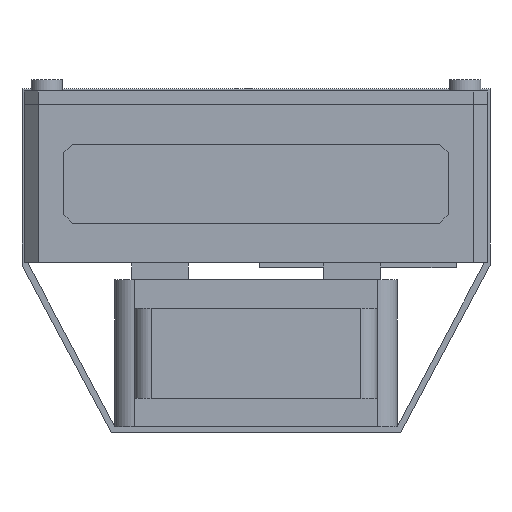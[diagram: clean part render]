
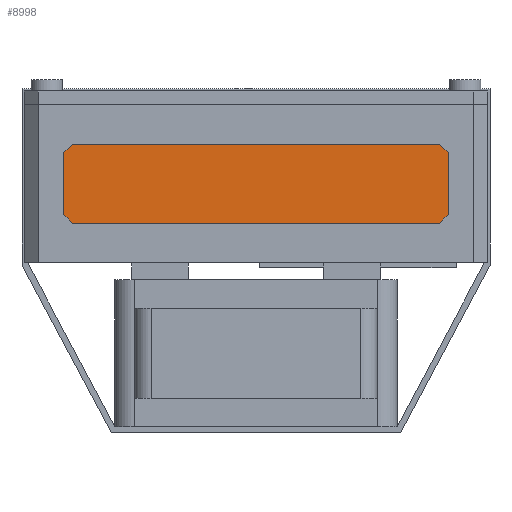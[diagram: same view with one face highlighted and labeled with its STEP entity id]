
A CAD part, front view. The second image highlights one B-rep face of the part: STEP entity #8998.
In plain terms, the highlighted planar face has unit normal (0, -1, 0).
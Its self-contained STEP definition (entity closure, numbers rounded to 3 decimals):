
#655 = PLANE('',#656);
#656 = AXIS2_PLACEMENT_3D('',#657,#658,#659);
#657 = CARTESIAN_POINT('',(-34.,-54.65,8.5));
#658 = DIRECTION('',(0.707,0.,0.707));
#659 = DIRECTION('',(0.707,0.,-0.707)
  );
#681 = PLANE('',#682);
#682 = AXIS2_PLACEMENT_3D('',#683,#684,#685);
#683 = CARTESIAN_POINT('',(-32.5,-54.65,7.));
#684 = DIRECTION('',(0.,0.,1.));
#685 = DIRECTION('',(1.,0.,0.));
#707 = PLANE('',#708);
#708 = AXIS2_PLACEMENT_3D('',#709,#710,#711);
#709 = CARTESIAN_POINT('',(32.5,-54.65,7.));
#710 = DIRECTION('',(-0.707,0.,0.707)
  );
#711 = DIRECTION('',(0.707,0.,0.707));
#733 = PLANE('',#734);
#734 = AXIS2_PLACEMENT_3D('',#735,#736,#737);
#735 = CARTESIAN_POINT('',(34.,-54.65,8.5));
#736 = DIRECTION('',(-1.,0.,0.));
#737 = DIRECTION('',(0.,0.,1.));
#759 = PLANE('',#760);
#760 = AXIS2_PLACEMENT_3D('',#761,#762,#763);
#761 = CARTESIAN_POINT('',(34.,-54.65,19.5));
#762 = DIRECTION('',(-0.707,0.,-0.707
    ));
#763 = DIRECTION('',(-0.707,0.,0.707)
  );
#785 = PLANE('',#786);
#786 = AXIS2_PLACEMENT_3D('',#787,#788,#789);
#787 = CARTESIAN_POINT('',(32.5,-54.65,21.));
#788 = DIRECTION('',(0.,0.,-1.));
#789 = DIRECTION('',(-1.,0.,0.));
#811 = PLANE('',#812);
#812 = AXIS2_PLACEMENT_3D('',#813,#814,#815);
#813 = CARTESIAN_POINT('',(-32.5,-54.65,21.));
#814 = DIRECTION('',(0.707,0.,-0.707)
  );
#815 = DIRECTION('',(-0.707,0.,-0.707
    ));
#835 = PLANE('',#836);
#836 = AXIS2_PLACEMENT_3D('',#837,#838,#839);
#837 = CARTESIAN_POINT('',(-34.,-54.65,19.5));
#838 = DIRECTION('',(1.,0.,0.));
#839 = DIRECTION('',(0.,0.,-1.));
#3086 = EDGE_CURVE('',#3087,#3089,#3091,.T.);
#3087 = VERTEX_POINT('',#3088);
#3088 = CARTESIAN_POINT('',(-34.,-54.65,8.5));
#3089 = VERTEX_POINT('',#3090);
#3090 = CARTESIAN_POINT('',(-32.5,-54.65,7.));
#3091 = SURFACE_CURVE('',#3092,(#3096,#3103),.PCURVE_S1.);
#3092 = LINE('',#3093,#3094);
#3093 = CARTESIAN_POINT('',(-34.,-54.65,8.5));
#3094 = VECTOR('',#3095,1.);
#3095 = DIRECTION('',(0.707,0.,-0.707
    ));
#3096 = PCURVE('',#655,#3097);
#3097 = DEFINITIONAL_REPRESENTATION('',(#3098),#3102);
#3098 = LINE('',#3099,#3100);
#3099 = CARTESIAN_POINT('',(0.,0.));
#3100 = VECTOR('',#3101,1.);
#3101 = DIRECTION('',(1.,0.));
#3102 = ( GEOMETRIC_REPRESENTATION_CONTEXT(2) 
PARAMETRIC_REPRESENTATION_CONTEXT() REPRESENTATION_CONTEXT('2D SPACE',''
  ) );
#3103 = PCURVE('',#3104,#3109);
#3104 = PLANE('',#3105);
#3105 = AXIS2_PLACEMENT_3D('',#3106,#3107,#3108);
#3106 = CARTESIAN_POINT('',(0.,-54.65,14.));
#3107 = DIRECTION('',(0.,-1.,0.));
#3108 = DIRECTION('',(1.,0.,0.));
#3109 = DEFINITIONAL_REPRESENTATION('',(#3110),#3114);
#3110 = LINE('',#3111,#3112);
#3111 = CARTESIAN_POINT('',(-34.,-5.5));
#3112 = VECTOR('',#3113,1.);
#3113 = DIRECTION('',(0.707,-0.707));
#3114 = ( GEOMETRIC_REPRESENTATION_CONTEXT(2) 
PARAMETRIC_REPRESENTATION_CONTEXT() REPRESENTATION_CONTEXT('2D SPACE',''
  ) );
#3162 = EDGE_CURVE('',#3163,#3087,#3165,.T.);
#3163 = VERTEX_POINT('',#3164);
#3164 = CARTESIAN_POINT('',(-34.,-54.65,19.5));
#3165 = SURFACE_CURVE('',#3166,(#3170,#3177),.PCURVE_S1.);
#3166 = LINE('',#3167,#3168);
#3167 = CARTESIAN_POINT('',(-34.,-54.65,19.5));
#3168 = VECTOR('',#3169,1.);
#3169 = DIRECTION('',(0.,0.,-1.));
#3170 = PCURVE('',#835,#3171);
#3171 = DEFINITIONAL_REPRESENTATION('',(#3172),#3176);
#3172 = LINE('',#3173,#3174);
#3173 = CARTESIAN_POINT('',(0.,0.));
#3174 = VECTOR('',#3175,1.);
#3175 = DIRECTION('',(1.,0.));
#3176 = ( GEOMETRIC_REPRESENTATION_CONTEXT(2) 
PARAMETRIC_REPRESENTATION_CONTEXT() REPRESENTATION_CONTEXT('2D SPACE',''
  ) );
#3177 = PCURVE('',#3104,#3178);
#3178 = DEFINITIONAL_REPRESENTATION('',(#3179),#3183);
#3179 = LINE('',#3180,#3181);
#3180 = CARTESIAN_POINT('',(-34.,5.5));
#3181 = VECTOR('',#3182,1.);
#3182 = DIRECTION('',(0.,-1.));
#3183 = ( GEOMETRIC_REPRESENTATION_CONTEXT(2) 
PARAMETRIC_REPRESENTATION_CONTEXT() REPRESENTATION_CONTEXT('2D SPACE',''
  ) );
#3211 = EDGE_CURVE('',#3212,#3163,#3214,.T.);
#3212 = VERTEX_POINT('',#3213);
#3213 = CARTESIAN_POINT('',(-32.5,-54.65,21.));
#3214 = SURFACE_CURVE('',#3215,(#3219,#3226),.PCURVE_S1.);
#3215 = LINE('',#3216,#3217);
#3216 = CARTESIAN_POINT('',(-32.5,-54.65,21.));
#3217 = VECTOR('',#3218,1.);
#3218 = DIRECTION('',(-0.707,0.,
    -0.707));
#3219 = PCURVE('',#811,#3220);
#3220 = DEFINITIONAL_REPRESENTATION('',(#3221),#3225);
#3221 = LINE('',#3222,#3223);
#3222 = CARTESIAN_POINT('',(0.,0.));
#3223 = VECTOR('',#3224,1.);
#3224 = DIRECTION('',(1.,0.));
#3225 = ( GEOMETRIC_REPRESENTATION_CONTEXT(2) 
PARAMETRIC_REPRESENTATION_CONTEXT() REPRESENTATION_CONTEXT('2D SPACE',''
  ) );
#3226 = PCURVE('',#3104,#3227);
#3227 = DEFINITIONAL_REPRESENTATION('',(#3228),#3232);
#3228 = LINE('',#3229,#3230);
#3229 = CARTESIAN_POINT('',(-32.5,7.));
#3230 = VECTOR('',#3231,1.);
#3231 = DIRECTION('',(-0.707,-0.707));
#3232 = ( GEOMETRIC_REPRESENTATION_CONTEXT(2) 
PARAMETRIC_REPRESENTATION_CONTEXT() REPRESENTATION_CONTEXT('2D SPACE',''
  ) );
#3260 = EDGE_CURVE('',#3261,#3212,#3263,.T.);
#3261 = VERTEX_POINT('',#3262);
#3262 = CARTESIAN_POINT('',(32.5,-54.65,21.));
#3263 = SURFACE_CURVE('',#3264,(#3268,#3275),.PCURVE_S1.);
#3264 = LINE('',#3265,#3266);
#3265 = CARTESIAN_POINT('',(32.5,-54.65,21.));
#3266 = VECTOR('',#3267,1.);
#3267 = DIRECTION('',(-1.,0.,0.));
#3268 = PCURVE('',#785,#3269);
#3269 = DEFINITIONAL_REPRESENTATION('',(#3270),#3274);
#3270 = LINE('',#3271,#3272);
#3271 = CARTESIAN_POINT('',(0.,-0.));
#3272 = VECTOR('',#3273,1.);
#3273 = DIRECTION('',(1.,0.));
#3274 = ( GEOMETRIC_REPRESENTATION_CONTEXT(2) 
PARAMETRIC_REPRESENTATION_CONTEXT() REPRESENTATION_CONTEXT('2D SPACE',''
  ) );
#3275 = PCURVE('',#3104,#3276);
#3276 = DEFINITIONAL_REPRESENTATION('',(#3277),#3281);
#3277 = LINE('',#3278,#3279);
#3278 = CARTESIAN_POINT('',(32.5,7.));
#3279 = VECTOR('',#3280,1.);
#3280 = DIRECTION('',(-1.,0.));
#3281 = ( GEOMETRIC_REPRESENTATION_CONTEXT(2) 
PARAMETRIC_REPRESENTATION_CONTEXT() REPRESENTATION_CONTEXT('2D SPACE',''
  ) );
#3309 = EDGE_CURVE('',#3310,#3261,#3312,.T.);
#3310 = VERTEX_POINT('',#3311);
#3311 = CARTESIAN_POINT('',(34.,-54.65,19.5));
#3312 = SURFACE_CURVE('',#3313,(#3317,#3324),.PCURVE_S1.);
#3313 = LINE('',#3314,#3315);
#3314 = CARTESIAN_POINT('',(34.,-54.65,19.5));
#3315 = VECTOR('',#3316,1.);
#3316 = DIRECTION('',(-0.707,0.,0.707)
  );
#3317 = PCURVE('',#759,#3318);
#3318 = DEFINITIONAL_REPRESENTATION('',(#3319),#3323);
#3319 = LINE('',#3320,#3321);
#3320 = CARTESIAN_POINT('',(0.,0.));
#3321 = VECTOR('',#3322,1.);
#3322 = DIRECTION('',(1.,0.));
#3323 = ( GEOMETRIC_REPRESENTATION_CONTEXT(2) 
PARAMETRIC_REPRESENTATION_CONTEXT() REPRESENTATION_CONTEXT('2D SPACE',''
  ) );
#3324 = PCURVE('',#3104,#3325);
#3325 = DEFINITIONAL_REPRESENTATION('',(#3326),#3330);
#3326 = LINE('',#3327,#3328);
#3327 = CARTESIAN_POINT('',(34.,5.5));
#3328 = VECTOR('',#3329,1.);
#3329 = DIRECTION('',(-0.707,0.707));
#3330 = ( GEOMETRIC_REPRESENTATION_CONTEXT(2) 
PARAMETRIC_REPRESENTATION_CONTEXT() REPRESENTATION_CONTEXT('2D SPACE',''
  ) );
#3358 = EDGE_CURVE('',#3359,#3310,#3361,.T.);
#3359 = VERTEX_POINT('',#3360);
#3360 = CARTESIAN_POINT('',(34.,-54.65,8.5));
#3361 = SURFACE_CURVE('',#3362,(#3366,#3373),.PCURVE_S1.);
#3362 = LINE('',#3363,#3364);
#3363 = CARTESIAN_POINT('',(34.,-54.65,8.5));
#3364 = VECTOR('',#3365,1.);
#3365 = DIRECTION('',(0.,0.,1.));
#3366 = PCURVE('',#733,#3367);
#3367 = DEFINITIONAL_REPRESENTATION('',(#3368),#3372);
#3368 = LINE('',#3369,#3370);
#3369 = CARTESIAN_POINT('',(0.,0.));
#3370 = VECTOR('',#3371,1.);
#3371 = DIRECTION('',(1.,0.));
#3372 = ( GEOMETRIC_REPRESENTATION_CONTEXT(2) 
PARAMETRIC_REPRESENTATION_CONTEXT() REPRESENTATION_CONTEXT('2D SPACE',''
  ) );
#3373 = PCURVE('',#3104,#3374);
#3374 = DEFINITIONAL_REPRESENTATION('',(#3375),#3379);
#3375 = LINE('',#3376,#3377);
#3376 = CARTESIAN_POINT('',(34.,-5.5));
#3377 = VECTOR('',#3378,1.);
#3378 = DIRECTION('',(0.,1.));
#3379 = ( GEOMETRIC_REPRESENTATION_CONTEXT(2) 
PARAMETRIC_REPRESENTATION_CONTEXT() REPRESENTATION_CONTEXT('2D SPACE',''
  ) );
#3407 = EDGE_CURVE('',#3408,#3359,#3410,.T.);
#3408 = VERTEX_POINT('',#3409);
#3409 = CARTESIAN_POINT('',(32.5,-54.65,7.));
#3410 = SURFACE_CURVE('',#3411,(#3415,#3422),.PCURVE_S1.);
#3411 = LINE('',#3412,#3413);
#3412 = CARTESIAN_POINT('',(32.5,-54.65,7.));
#3413 = VECTOR('',#3414,1.);
#3414 = DIRECTION('',(0.707,0.,0.707)
  );
#3415 = PCURVE('',#707,#3416);
#3416 = DEFINITIONAL_REPRESENTATION('',(#3417),#3421);
#3417 = LINE('',#3418,#3419);
#3418 = CARTESIAN_POINT('',(0.,0.));
#3419 = VECTOR('',#3420,1.);
#3420 = DIRECTION('',(1.,0.));
#3421 = ( GEOMETRIC_REPRESENTATION_CONTEXT(2) 
PARAMETRIC_REPRESENTATION_CONTEXT() REPRESENTATION_CONTEXT('2D SPACE',''
  ) );
#3422 = PCURVE('',#3104,#3423);
#3423 = DEFINITIONAL_REPRESENTATION('',(#3424),#3428);
#3424 = LINE('',#3425,#3426);
#3425 = CARTESIAN_POINT('',(32.5,-7.));
#3426 = VECTOR('',#3427,1.);
#3427 = DIRECTION('',(0.707,0.707));
#3428 = ( GEOMETRIC_REPRESENTATION_CONTEXT(2) 
PARAMETRIC_REPRESENTATION_CONTEXT() REPRESENTATION_CONTEXT('2D SPACE',''
  ) );
#3456 = EDGE_CURVE('',#3089,#3408,#3457,.T.);
#3457 = SURFACE_CURVE('',#3458,(#3462,#3469),.PCURVE_S1.);
#3458 = LINE('',#3459,#3460);
#3459 = CARTESIAN_POINT('',(-32.5,-54.65,7.));
#3460 = VECTOR('',#3461,1.);
#3461 = DIRECTION('',(1.,0.,0.));
#3462 = PCURVE('',#681,#3463);
#3463 = DEFINITIONAL_REPRESENTATION('',(#3464),#3468);
#3464 = LINE('',#3465,#3466);
#3465 = CARTESIAN_POINT('',(0.,0.));
#3466 = VECTOR('',#3467,1.);
#3467 = DIRECTION('',(1.,0.));
#3468 = ( GEOMETRIC_REPRESENTATION_CONTEXT(2) 
PARAMETRIC_REPRESENTATION_CONTEXT() REPRESENTATION_CONTEXT('2D SPACE',''
  ) );
#3469 = PCURVE('',#3104,#3470);
#3470 = DEFINITIONAL_REPRESENTATION('',(#3471),#3475);
#3471 = LINE('',#3472,#3473);
#3472 = CARTESIAN_POINT('',(-32.5,-7.));
#3473 = VECTOR('',#3474,1.);
#3474 = DIRECTION('',(1.,0.));
#3475 = ( GEOMETRIC_REPRESENTATION_CONTEXT(2) 
PARAMETRIC_REPRESENTATION_CONTEXT() REPRESENTATION_CONTEXT('2D SPACE',''
  ) );
#8998 = ADVANCED_FACE('',(#8999),#3104,.T.);
#8999 = FACE_BOUND('',#9000,.T.);
#9000 = EDGE_LOOP('',(#9001,#9002,#9003,#9004,#9005,#9006,#9007,#9008));
#9001 = ORIENTED_EDGE('',*,*,#3456,.T.);
#9002 = ORIENTED_EDGE('',*,*,#3407,.T.);
#9003 = ORIENTED_EDGE('',*,*,#3358,.T.);
#9004 = ORIENTED_EDGE('',*,*,#3309,.T.);
#9005 = ORIENTED_EDGE('',*,*,#3260,.T.);
#9006 = ORIENTED_EDGE('',*,*,#3211,.T.);
#9007 = ORIENTED_EDGE('',*,*,#3162,.T.);
#9008 = ORIENTED_EDGE('',*,*,#3086,.T.);
